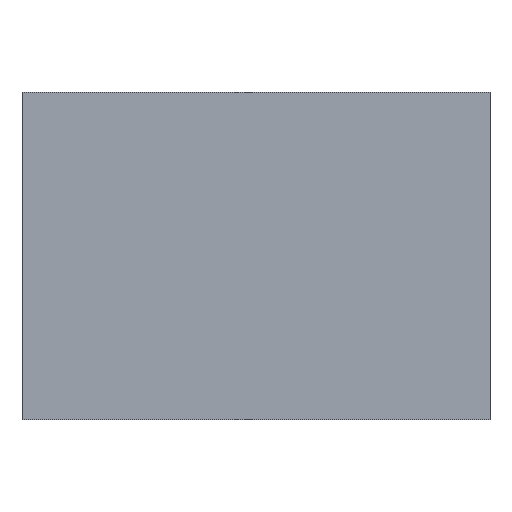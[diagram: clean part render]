
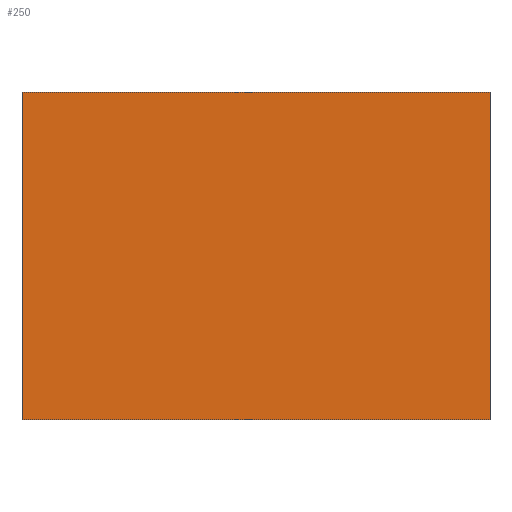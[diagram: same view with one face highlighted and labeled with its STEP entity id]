
A CAD part, front view. The second image highlights one B-rep face of the part: STEP entity #250.
In plain terms, the highlighted planar face has unit normal (0, -1, 0).
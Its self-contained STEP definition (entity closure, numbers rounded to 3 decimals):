
#28=FACE_OUTER_BOUND('',#42,.T.);
#42=EDGE_LOOP('',(#219,#220,#221,#222));
#51=LINE('',#367,#83);
#63=LINE('',#392,#95);
#73=LINE('',#410,#105);
#74=LINE('',#412,#106);
#83=VECTOR('',#299,10.);
#95=VECTOR('',#317,10.);
#105=VECTOR('',#341,10.);
#106=VECTOR('',#344,10.);
#114=VERTEX_POINT('',#364);
#115=VERTEX_POINT('',#366);
#124=VERTEX_POINT('',#389);
#125=VERTEX_POINT('',#391);
#135=EDGE_CURVE('',#115,#114,#51,.T.);
#147=EDGE_CURVE('',#125,#124,#63,.T.);
#157=EDGE_CURVE('',#124,#115,#73,.T.);
#158=EDGE_CURVE('',#114,#125,#74,.T.);
#219=ORIENTED_EDGE('',*,*,#158,.T.);
#220=ORIENTED_EDGE('',*,*,#147,.T.);
#221=ORIENTED_EDGE('',*,*,#157,.T.);
#222=ORIENTED_EDGE('',*,*,#135,.T.);
#236=PLANE('',#284);
#250=ADVANCED_FACE('',(#28),#236,.T.);
#284=AXIS2_PLACEMENT_3D('',#413,#345,#346);
#299=DIRECTION('',(-1.,0.,0.));
#317=DIRECTION('',(1.,0.,0.));
#341=DIRECTION('',(0.,0.,1.));
#344=DIRECTION('',(0.,0.,-1.));
#345=DIRECTION('center_axis',(0.,-1.,0.));
#346=DIRECTION('ref_axis',(0.,0.,-1.));
#364=CARTESIAN_POINT('',(-50.,-20.,35.));
#366=CARTESIAN_POINT('',(50.,-20.,35.));
#367=CARTESIAN_POINT('',(-50.,-20.,35.));
#389=CARTESIAN_POINT('',(50.,-20.,-35.));
#391=CARTESIAN_POINT('',(-50.,-20.,-35.));
#392=CARTESIAN_POINT('',(50.,-20.,-35.));
#410=CARTESIAN_POINT('',(50.,-20.,35.));
#412=CARTESIAN_POINT('',(-50.,-20.,-35.));
#413=CARTESIAN_POINT('Origin',(0.,-20.,0.));
